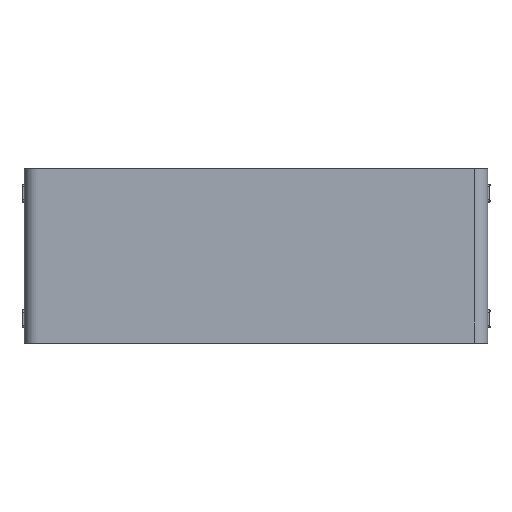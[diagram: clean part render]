
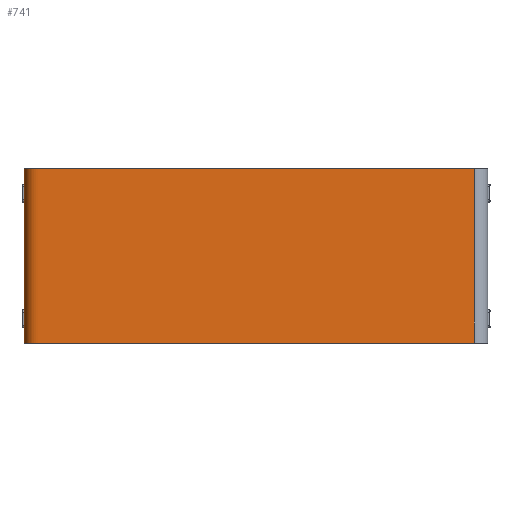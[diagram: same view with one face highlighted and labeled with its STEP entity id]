
A CAD part, top view. The second image highlights one B-rep face of the part: STEP entity #741.
In plain terms, the highlighted free-form (B-spline) face has degree [2, 1] with [7, 2] control points.
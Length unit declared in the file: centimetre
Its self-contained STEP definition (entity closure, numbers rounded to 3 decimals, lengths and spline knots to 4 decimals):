
#306=B_SPLINE_CURVE_WITH_KNOTS($,1,(#5965,#5966),.UNSPECIFIED.,.F.,.F.,(2,
2),(0.,32.),.UNSPECIFIED.);
#314=B_SPLINE_CURVE_WITH_KNOTS($,1,(#6020,#6021),.UNSPECIFIED.,.F.,.F.,(2,
2),(0.,32.),.UNSPECIFIED.);
#741=ADVANCED_FACE($,(#1001),#3345,.T.);
#1001=FACE_OUTER_BOUND($,#1261,.T.);
#1261=EDGE_LOOP($,(#1918,#1919,#1920,#1921));
#1918=ORIENTED_EDGE($,*,*,#2669,.F.);
#1919=ORIENTED_EDGE($,*,*,#2670,.T.);
#1920=ORIENTED_EDGE($,*,*,#2671,.T.);
#1921=ORIENTED_EDGE($,*,*,#2683,.F.);
#2669=EDGE_CURVE($,#3102,#3107,#3504,.T.);
#2670=EDGE_CURVE($,#3102,#3103,#306,.T.);
#2671=EDGE_CURVE($,#3103,#3111,#3505,.T.);
#2683=EDGE_CURVE($,#3107,#3111,#314,.T.);
#3102=VERTEX_POINT($,#6072);
#3103=VERTEX_POINT($,#6073);
#3107=VERTEX_POINT($,#6077);
#3111=VERTEX_POINT($,#6081);
#3345=(
BOUNDED_SURFACE()
B_SPLINE_SURFACE(2,1,((#6058,#6059),(#6060,#6061),(#6062,#6063),(#6064,#6065),
(#6066,#6067),(#6068,#6069),(#6070,#6071)),.UNSPECIFIED.,.F.,.F.,.F.)
B_SPLINE_SURFACE_WITH_KNOTS((3,2,2,3),(2,2),(-125.854,-106.854,
-102.927,-22.927),(0.,32.),.UNSPECIFIED.)
GEOMETRIC_REPRESENTATION_ITEM()
RATIONAL_B_SPLINE_SURFACE(((1.,1.),(1.,1.),(1.,1.),(0.707,0.707),
(1.,1.),(1.,1.),(1.,1.)))
REPRESENTATION_ITEM($)
SURFACE()
);
#3504=(
BOUNDED_CURVE()
B_SPLINE_CURVE(2,(#5958,#5959,#5960,#5961,#5962,#5963,#5964),.UNSPECIFIED.,
.F.,.F.)
B_SPLINE_CURVE_WITH_KNOTS((3,2,2,3),(22.927,102.927,106.854,
125.854),.UNSPECIFIED.)
CURVE()
GEOMETRIC_REPRESENTATION_ITEM()
RATIONAL_B_SPLINE_CURVE((1.,1.,1.,0.707,1.,1.,1.))
REPRESENTATION_ITEM($)
);
#3505=(
BOUNDED_CURVE()
B_SPLINE_CURVE(2,(#5967,#5968,#5969,#5970,#5971,#5972,#5973),.UNSPECIFIED.,
.F.,.F.)
B_SPLINE_CURVE_WITH_KNOTS((3,2,2,3),(22.927,102.927,106.854,
125.854),.UNSPECIFIED.)
CURVE()
GEOMETRIC_REPRESENTATION_ITEM()
RATIONAL_B_SPLINE_CURVE((1.,1.,1.,0.707,1.,1.,1.))
REPRESENTATION_ITEM($)
);
#5958=CARTESIAN_POINT($,(84.7046,0.,55.1359));
#5959=CARTESIAN_POINT($,(44.7046,0.,55.1359));
#5960=CARTESIAN_POINT($,(4.7046,0.,55.1359));
#5961=CARTESIAN_POINT($,(2.2046,0.,55.1359));
#5962=CARTESIAN_POINT($,(2.2046,0.,52.6359));
#5963=CARTESIAN_POINT($,(2.2046,0.,43.1359));
#5964=CARTESIAN_POINT($,(2.2046,0.,33.6359));
#5965=CARTESIAN_POINT($,(84.7046,0.,55.1359));
#5966=CARTESIAN_POINT($,(84.7046,32.,55.1359));
#5967=CARTESIAN_POINT($,(84.7046,32.,55.1359));
#5968=CARTESIAN_POINT($,(44.7046,32.,55.1359));
#5969=CARTESIAN_POINT($,(4.7046,32.,55.1359));
#5970=CARTESIAN_POINT($,(2.2046,32.,55.1359));
#5971=CARTESIAN_POINT($,(2.2046,32.,52.6359));
#5972=CARTESIAN_POINT($,(2.2046,32.,43.1359));
#5973=CARTESIAN_POINT($,(2.2046,32.,33.6359));
#6020=CARTESIAN_POINT($,(2.2046,0.,33.6359));
#6021=CARTESIAN_POINT($,(2.2046,32.,33.6359));
#6058=CARTESIAN_POINT($,(2.2046,0.,33.6359));
#6059=CARTESIAN_POINT($,(2.2046,32.,33.6359));
#6060=CARTESIAN_POINT($,(2.2046,0.,43.1359));
#6061=CARTESIAN_POINT($,(2.2046,32.,43.1359));
#6062=CARTESIAN_POINT($,(2.2046,0.,52.6359));
#6063=CARTESIAN_POINT($,(2.2046,32.,52.6359));
#6064=CARTESIAN_POINT($,(2.2046,0.,55.1359));
#6065=CARTESIAN_POINT($,(2.2046,32.,55.1359));
#6066=CARTESIAN_POINT($,(4.7046,0.,55.1359));
#6067=CARTESIAN_POINT($,(4.7046,32.,55.1359));
#6068=CARTESIAN_POINT($,(44.7046,0.,55.1359));
#6069=CARTESIAN_POINT($,(44.7046,32.,55.1359));
#6070=CARTESIAN_POINT($,(84.7046,0.,55.1359));
#6071=CARTESIAN_POINT($,(84.7046,32.,55.1359));
#6072=CARTESIAN_POINT($,(84.7046,0.,55.1359));
#6073=CARTESIAN_POINT($,(84.7046,32.,55.1359));
#6077=CARTESIAN_POINT($,(2.2046,0.,33.6359));
#6081=CARTESIAN_POINT($,(2.2046,32.,33.6359));
